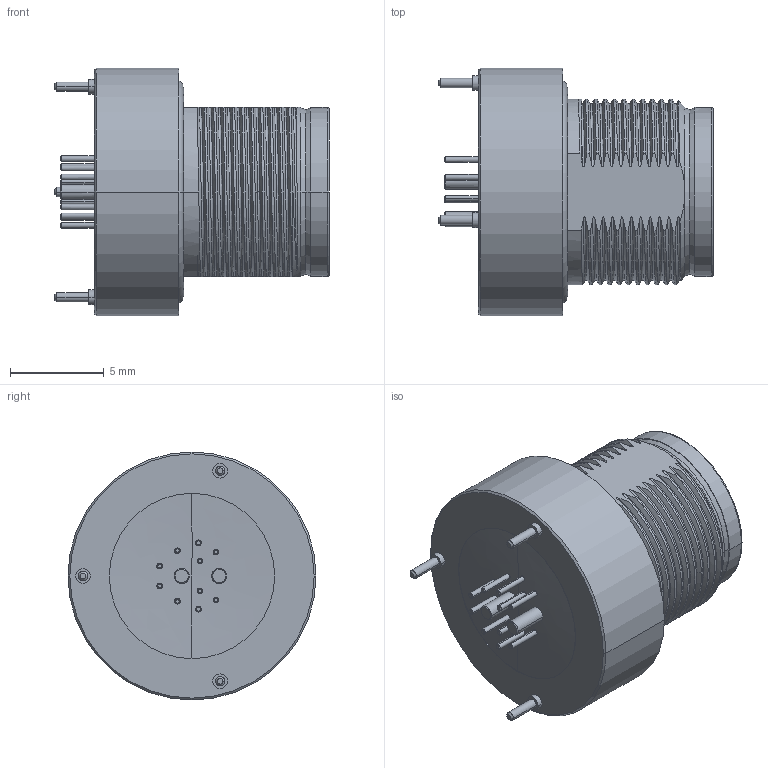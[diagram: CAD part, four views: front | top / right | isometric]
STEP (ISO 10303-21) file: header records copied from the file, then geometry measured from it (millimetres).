
FILE_DESCRIPTION((''),'2;1');
FILE_NAME('00058973-B_ASM','2020-10-30T08:58:17',('EUnterhaslberger'),(''),'CREO PARAMETRIC BY PTC INC, 2018300','CREO PARAMETRIC BY PTC INC, 2018300','');
FILE_SCHEMA(('AP242_MANAGED_MODEL_BASED_3D_ENGINEERING_MIM_LF { 1 0 10303 442 1 1 4 }'));
Length unit declared in the file: millimetre
Products named in the file (4): TEMP_SW_STEP_MONOBLOCK_1_1; TEMP_SW_STEP_MONOBLOCK_1_2; TEMP_SW_STEP_MONOBLOCK_1_ASM; 00058973-B_ASM
Assembly tree (3 placements, depth 3):
  00058973-B_ASM
    TEMP_SW_STEP_MONOBLOCK_1_ASM
      TEMP_SW_STEP_MONOBLOCK_1_1
      TEMP_SW_STEP_MONOBLOCK_1_2
Bounding box: 14.6 x 13.2 x 13.2 mm (x, y, z)
Volume: 906.2 mm3; surface area: 1235 mm2
Topology: 2 solids, 2 shells, 443 faces, 1173 edges, 793 vertices
Faces by surface type: cylinder 146, plane 134, bspline 72, cone 68, torus 23
Entity records: 27379 total; most frequent: CARTESIAN_POINT 13518, ORIENTED_EDGE 2342, DIRECTION 2062, EDGE_CURVE 1171, AXIS2_PLACEMENT_3D 841, VERTEX_POINT 793, EDGE_LOOP 506, CIRCLE 461
